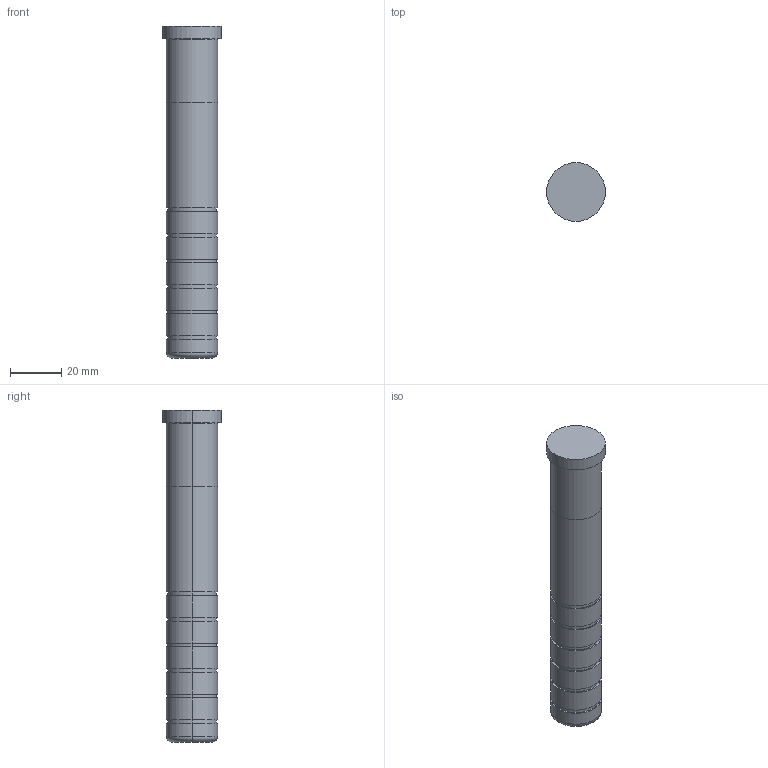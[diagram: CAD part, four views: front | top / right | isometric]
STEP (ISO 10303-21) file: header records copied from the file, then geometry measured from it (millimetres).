
FILE_DESCRIPTION(/* description */ (''),/* implementation_level */ '2;1');
FILE_NAME(/* name */ '3d_sgoh20-130_05198_r00.stp',/* time_stamp */ '2011-01-10T14:11:09+09:00',/* author */ ('MISUMI'),/* organization */ (''),/* preprocessor_version */ 'ST-DEVELOPER v11',/* originating_system */ 'UGS - NX 5.0',/* authorisation */ '');
FILE_SCHEMA (('CONFIG_CONTROL_DESIGN'));
Length unit declared in the file: millimetre
Products named in the file (1): 3d_sgoh20-130_05198_r00
Bounding box: 23 x 23 x 130 mm (x, y, z)
Volume: 41020.9 mm3; surface area: 9323.1 mm2
Topology: 1 solids, 1 shells, 49 faces, 96 edges, 62 vertices
Faces by surface type: cylinder 30, plane 15, torus 4
Entity records: 1374 total; most frequent: DIRECTION 262, CARTESIAN_POINT 208, ORIENTED_EDGE 192, AXIS2_PLACEMENT_3D 116, EDGE_CURVE 96, CIRCLE 66, EDGE_LOOP 62, VERTEX_POINT 62
